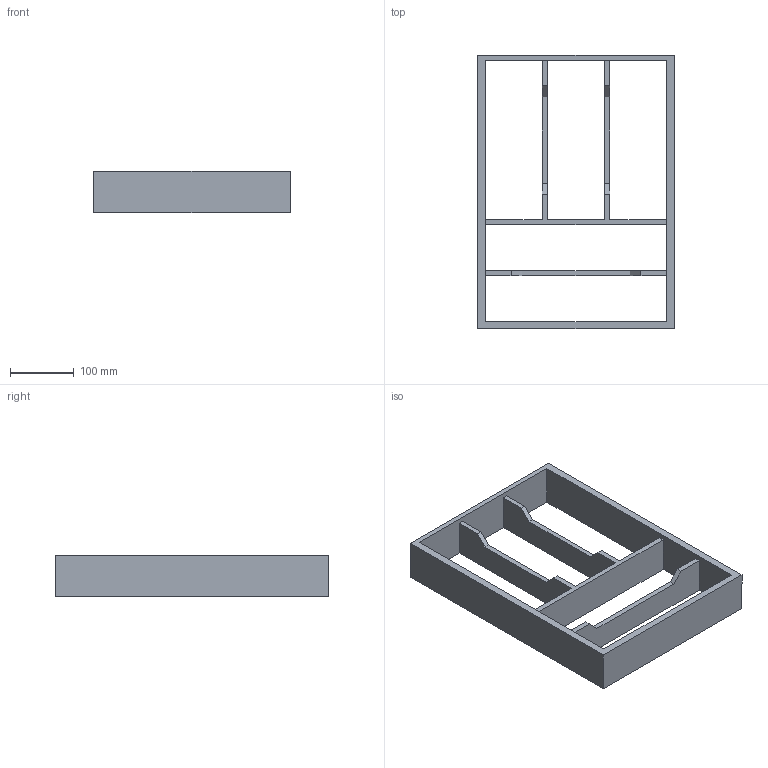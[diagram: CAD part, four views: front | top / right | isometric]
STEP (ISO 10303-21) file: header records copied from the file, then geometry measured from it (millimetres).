
FILE_DESCRIPTION (( 'STEP AP214' ), '1' );
FILE_NAME ('Vario Besteck fix NL450_B400_16mm_Buche.step', '2010-11-08T07:33:13', ( 'grass' ), ( '' ), 'SwSTEP 2.0', 'SolidWorks 2010', '' );
FILE_SCHEMA (( 'AUTOMOTIVE_DESIGN' ));
Length unit declared in the file: millimetre
Products named in the file (1): Vario Besteck fix NL450_B400_16mm_Buche
Bounding box: 308 x 429 x 65 mm (x, y, z)
Volume: 1439940 mm3; surface area: 336182 mm2
Topology: 1 solids, 1 shells, 34 faces, 108 edges, 72 vertices
Faces by surface type: plane 34
Entity records: 1226 total; most frequent: ORIENTED_EDGE 216, CARTESIAN_POINT 215, DIRECTION 178, LINE 108, VECTOR 108, EDGE_CURVE 108, VERTEX_POINT 72, EDGE_LOOP 40
